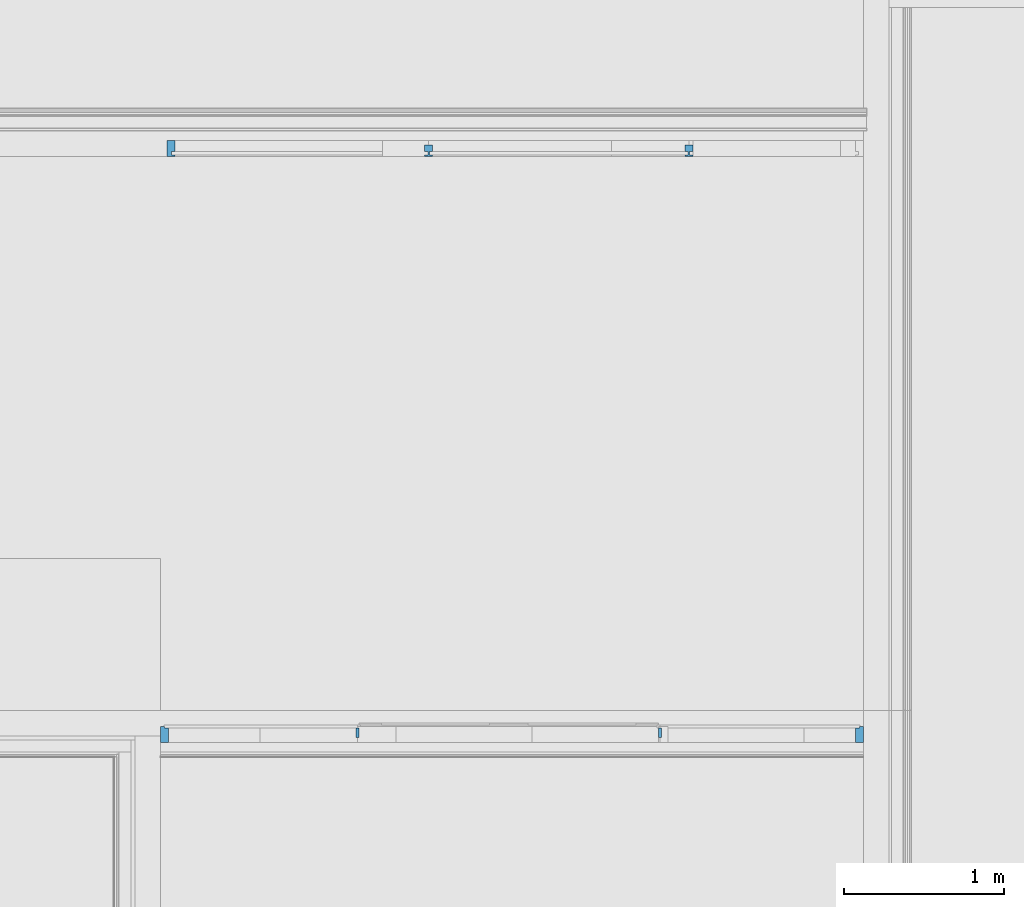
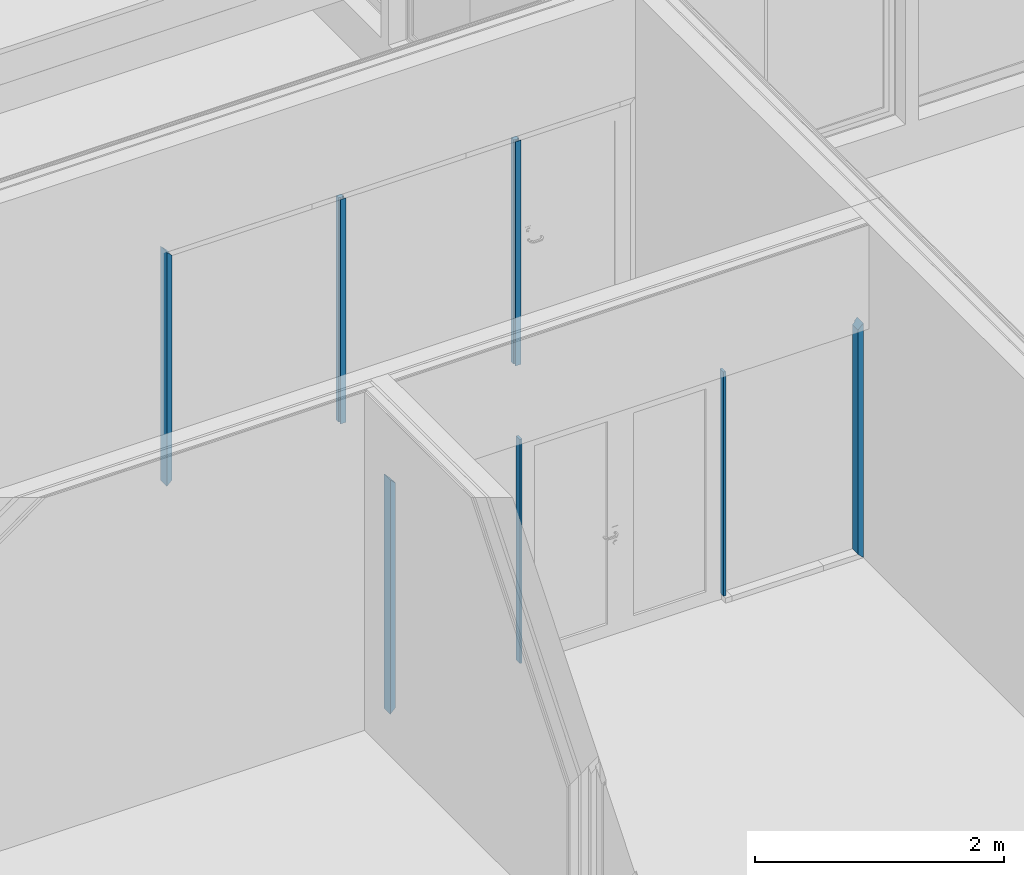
# One storey, part 10 of 139: 7 members, 2 elements without a shape of their own.
"""IFC2X3 building model written with IfcOpenShell, lengths in millimetres."""

import ifcopenshell
import ifcopenshell.guid

model = None  # the IFC model being written
_history = None  # IfcOwnerHistory: only IFC2X3 demands one
_inside = {}  # id of a spatial element -> (the spatial element, [elements in it])
_under = {}  # id of a project, library or spatial element -> (it, [spatial elements below it])
_declared = {}  # id of a project -> (the project, [libraries it declares])
_typed = {}  # id of a type object -> (the type object, [elements of that type])
_made_of = {}  # id of a material, layer set ... -> (it, [elements and type objects made of it])


def new_model(schema):
    """Start an empty IFC model of exactly this schema.

    Asked for "IFC4X3", IfcOpenShell would pick the latest addendum, in which some entities
    have other attributes; the version numbers below select the first issue.
    IFC2X3 requires an IfcOwnerHistory on every rooted entity: one is made here for all.
    """
    global model, _history
    if schema == "IFC4X3":
        model = ifcopenshell.file(schema_version=(4, 3, 0, 0))
    else:
        model = ifcopenshell.file(schema=schema)
    _inside.clear()
    _under.clear()
    _declared.clear()
    _typed.clear()
    _made_of.clear()
    _history = None
    if model.schema == "IFC2X3":
        org = make("IfcOrganization", Name="unknown")
        user = make(
            "IfcPersonAndOrganization",
            ThePerson=make("IfcPerson", FamilyName="unknown"),
            TheOrganization=org,
        )
        app = make(
            "IfcApplication",
            ApplicationDeveloper=org,
            Version="unknown",
            ApplicationFullName="unknown",
            ApplicationIdentifier="unknown",
        )
        _history = make(
            "IfcOwnerHistory",
            OwningUser=user,
            OwningApplication=app,
            ChangeAction="ADDED",
            CreationDate=0,
        )
    return model


def make(cls, **values):
    """One entity of the class cls with the attributes given. An attribute that is None is left unset."""
    return model.create_entity(
        cls, **{name: value for name, value in values.items() if value is not None}
    )


def entity(cls, *values):
    """Any entity or typed value of the class cls, its attributes in the order of the schema. None: left unset."""
    e = model.create_entity(cls)
    for i, value in enumerate(values):
        if value is not None:
            e[i] = value
    return e


def rooted(cls, **values):
    """An entity with a GlobalId (a new one), such as an element, a storey or a relation."""
    return make(cls, GlobalId=ifcopenshell.guid.new(), OwnerHistory=_history, **values)


def si_unit(unit_type, name, prefix=None):
    """IfcSIUnit, for example si_unit("LENGTHUNIT", "METRE", prefix="MILLI")."""
    return make("IfcSIUnit", UnitType=unit_type, Prefix=prefix, Name=name)


def converted_unit(unit_type, name, factor, base, dimensions=None, offset=None):
    """IfcConversionBasedUnit, such as the inch: factor (a typed value) times the base unit."""
    return make(
        "IfcConversionBasedUnit"
        if offset is None
        else "IfcConversionBasedUnitWithOffset",
        ConversionOffset=offset,
        Dimensions=None
        if dimensions is None
        else entity("IfcDimensionalExponents", *dimensions),
        UnitType=unit_type,
        Name=name,
        ConversionFactor=make(
            "IfcMeasureWithUnit", ValueComponent=factor, UnitComponent=base
        ),
    )


def derived_unit(unit_type, elements):
    """IfcDerivedUnit: a product of units, each with its exponent."""
    return make(
        "IfcDerivedUnit",
        Elements=[
            make("IfcDerivedUnitElement", Unit=unit, Exponent=power)
            for unit, power in elements
        ],
        UnitType=unit_type,
    )


def money_unit(currency):
    """IfcMonetaryUnit."""
    return make("IfcMonetaryUnit", Currency=currency)


def assignment(units):
    """IfcUnitAssignment: the units of a project."""
    return None if units is None else make("IfcUnitAssignment", Units=units)


def point(xyz):
    """IfcCartesianPoint."""
    return None if xyz is None else make("IfcCartesianPoint", Coordinates=xyz)


def direction(xyz):
    """IfcDirection."""
    return None if xyz is None else make("IfcDirection", DirectionRatios=xyz)


def frame(location, z_axis=None, x_axis=None):
    """IfcAxis2Placement3D, a coordinate frame: its origin and axes. An axis left out is left unset."""
    return make(
        "IfcAxis2Placement3D",
        Location=point(location),
        Axis=direction(z_axis),
        RefDirection=direction(x_axis),
    )


def origin_with_axes():
    """The frame at (0, 0, 0) with the z axis (0, 0, 1) and the x axis (1, 0, 0) written out."""
    return frame((0.0, 0.0, 0.0), z_axis=(0.0, 0.0, 1.0), x_axis=(1.0, 0.0, 0.0))


def place(relative_to, where):
    """IfcLocalPlacement: puts the frame where relative to a parent placement (None: the world)."""
    return make(
        "IfcLocalPlacement", PlacementRelTo=relative_to, RelativePlacement=where
    )


def context(
    kind, dimensions, precision=None, world=None, true_north=None, identifier=None
):
    """IfcGeometricRepresentationContext, for example the 3D "Model" context."""
    return make(
        "IfcGeometricRepresentationContext",
        ContextIdentifier=identifier,
        ContextType=kind,
        CoordinateSpaceDimension=dimensions,
        Precision=precision,
        WorldCoordinateSystem=world,
        TrueNorth=true_north,
    )


def subcontext(parent, identifier, kind, view, scale=None):
    """IfcGeometricRepresentationSubContext, for example "Body" below "Model"."""
    return make(
        "IfcGeometricRepresentationSubContext",
        ContextIdentifier=identifier,
        ContextType=kind,
        ParentContext=parent,
        TargetScale=scale,
        TargetView=view,
    )


def project(units=None, contexts=None):
    """IfcProject with its units and contexts."""
    return rooted(
        "IfcProject",
        Name="project",
        RepresentationContexts=contexts,
        UnitsInContext=assignment(units),
    )


def spatial(cls, under=None, at=None, **own):
    """A site, building, storey or space (cls), placed at a placement, below another one or the project."""
    s = rooted(cls, ObjectPlacement=at, **own)
    if under is not None:
        _under.setdefault(under.id(), (under, []))[1].append(s)
    return s


def faces_of(points, faces, orient=None, outer=None):
    """IfcFace entities. A face is a list of loops; a loop is a list of indices into points, from 0.

    orient and outer hold one flag for each loop. By default every Orientation is true, the
    first loop of a face is its IfcFaceOuterBound and the others are IfcFaceBound.
    """
    made = []
    for i, loops in enumerate(faces):
        bounds = []
        for j, loop in enumerate(loops):
            is_outer = j == 0 if outer is None else outer[i][j]
            bounds.append(
                make(
                    "IfcFaceOuterBound" if is_outer else "IfcFaceBound",
                    Bound=make("IfcPolyLoop", Polygon=[points[k] for k in loop]),
                    Orientation=True if orient is None else orient[i][j],
                )
            )
        made.append(make("IfcFace", Bounds=bounds))
    return made


def faceted_brep(points, faces, orient=None, outer=None, voids=None):
    """IfcFacetedBrep: a solid bounded by flat faces; with voids (closed shells), ...WithVoids."""
    shared = [point(p) for p in points]
    hull = make("IfcClosedShell", CfsFaces=faces_of(shared, faces, orient, outer))
    if voids is None:
        return make("IfcFacetedBrep", Outer=hull)
    return make(
        "IfcFacetedBrepWithVoids",
        Outer=hull,
        Voids=[
            make(cls, CfsFaces=faces_of(shared, fs, o, b)) for cls, fs, o, b in voids
        ],
    )


def shape(context_of_items, identifier, shape_type, items):
    """IfcShapeRepresentation: the items that make up one representation, for example the "Body"."""
    return make(
        "IfcShapeRepresentation",
        ContextOfItems=context_of_items,
        RepresentationIdentifier=identifier,
        RepresentationType=shape_type,
        Items=items,
    )


def source(mapping_origin, context_of_items, identifier, shape_type, items):
    """IfcRepresentationMap: a shape defined once, which mapped items show again and again."""
    return make(
        "IfcRepresentationMap",
        MappingOrigin=mapping_origin,
        MappedRepresentation=shape(context_of_items, identifier, shape_type, items),
    )


def transform(
    local_origin,
    x_axis=None,
    y_axis=None,
    z_axis=None,
    scale=None,
    scale2=None,
    scale3=None,
    uniform=True,
):
    """IfcCartesianTransformationOperator3D, or its non-uniform kind. x_axis, y_axis, z_axis: its Axis1, 2, 3."""
    if uniform:
        return make(
            "IfcCartesianTransformationOperator3D",
            Axis1=direction(x_axis),
            Axis2=direction(y_axis),
            LocalOrigin=point(local_origin),
            Scale=scale,
            Axis3=direction(z_axis),
        )
    return make(
        "IfcCartesianTransformationOperator3DnonUniform",
        Axis1=direction(x_axis),
        Axis2=direction(y_axis),
        LocalOrigin=point(local_origin),
        Scale=scale,
        Axis3=direction(z_axis),
        Scale2=scale2,
        Scale3=scale3,
    )


def mapped(mapping_source, mapping_target):
    """IfcMappedItem: shows the shape of a source again, moved by a transform."""
    return make(
        "IfcMappedItem", MappingSource=mapping_source, MappingTarget=mapping_target
    )


def material(Name=None, Category=None):
    """IfcMaterial."""
    return make("IfcMaterial", Name=Name, Category=Category)


def made_of(thing, what):
    """Note that an element or type object is made of a material, layer set ...; save() writes the relation."""
    if what is not None:
        _made_of.setdefault(what.id(), (what, []))[1].append(thing)
    return thing


def type_object(cls, material=None, **own):
    """A type object (cls), such as IfcWallType, which elements share."""
    return made_of(rooted(cls, **own), material)


def element(
    cls,
    number,
    at=None,
    inside=None,
    cuts=None,
    type_object=None,
    material=None,
    context=None,
    identifier="Body",
    shape_type=None,
    held_by="IfcProductDefinitionShape",
    body=None,
    shapes=None,
    **own,
):
    """One element of the class cls, such as IfcWall. Its Tag is "e" and its number.

    at: its placement. inside: the storey or other place that contains it. cuts: it is an
    opening in that element (IfcRelVoidsElement). A single representation is given by context,
    identifier, shape_type and body (its items); several are given by shapes. held_by: the class
    of the entity that holds the representations. save() writes the other relations.
    """
    e = rooted(cls, Tag="e%d" % number, ObjectPlacement=at, **own)
    if body is not None:
        shapes = [shape(context, identifier, shape_type, body)]
    if shapes is not None:
        e.Representation = make(held_by, Representations=shapes)
    if inside is not None:
        _inside.setdefault(inside.id(), (inside, []))[1].append(e)
    if cuts is not None:
        rooted(
            "IfcRelVoidsElement", RelatingBuildingElement=cuts, RelatedOpeningElement=e
        )
    if type_object is not None:
        _typed.setdefault(type_object.id(), (type_object, []))[1].append(e)
    return made_of(e, material)


def aggregate(whole, parts):
    """IfcRelAggregates: a whole, such as a stair, and the parts it consists of."""
    return rooted("IfcRelAggregates", RelatingObject=whole, RelatedObjects=parts)


def save(model, path):
    """Write the relations noted so far, then the file.

    IfcRelAggregates (storeys below a building ...), IfcRelContainedInSpatialStructure (elements
    in a storey), IfcRelDefinesByType, IfcRelAssociatesMaterial and IfcRelDeclares: one each for
    every whole, place, type object, material and project.
    """
    for whole, parts in _under.values():
        aggregate(whole, parts)
    for where, things in _inside.values():
        rooted(
            "IfcRelContainedInSpatialStructure",
            RelatedElements=things,
            RelatingStructure=where,
        )
    for kind, things in _typed.values():
        rooted("IfcRelDefinesByType", RelatedObjects=things, RelatingType=kind)
    for what, things in _made_of.values():
        rooted("IfcRelAssociatesMaterial", RelatedObjects=things, RelatingMaterial=what)
    for by, libraries in _declared.values():
        rooted("IfcRelDeclares", RelatingContext=by, RelatedDefinitions=libraries)
    model.write(path)


model = new_model("IFC2X3")

# Units and contexts
model_context = context("Model", 3, precision=0.01, world=origin_with_axes(), true_north=direction((0.0, 1.0)))
body_context = subcontext(model_context, "Body", "Model", "MODEL_VIEW")
ifc_project = project(units=[si_unit("LENGTHUNIT", "METRE", prefix="MILLI"), si_unit("AREAUNIT", "SQUARE_METRE"), si_unit("VOLUMEUNIT", "CUBIC_METRE"), converted_unit("PLANEANGLEUNIT", "DEGREE", entity("IfcPlaneAngleMeasure", 0.0174532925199), si_unit("PLANEANGLEUNIT", "RADIAN"), dimensions=[0, 0, 0, 0, 0, 0, 0]), money_unit("EUR"), converted_unit("TIMEUNIT", "Year", entity("IfcTimeMeasure", 31556926.0), si_unit("TIMEUNIT", "SECOND"), dimensions=[0, 0, 1, 0, 0, 0, 0]), si_unit("MASSUNIT", "GRAM", prefix="KILO"), si_unit("THERMODYNAMICTEMPERATUREUNIT", "DEGREE_CELSIUS"), si_unit("LUMINOUSINTENSITYUNIT", "LUMEN"), si_unit("ENERGYUNIT", "JOULE", prefix="MEGA"), derived_unit("THERMALCONDUCTANCEUNIT", [(si_unit("POWERUNIT", "WATT"), 1), (si_unit("LENGTHUNIT", "METRE"), -1), (si_unit("THERMODYNAMICTEMPERATUREUNIT", "KELVIN"), -1)]), derived_unit("SPECIFICHEATCAPACITYUNIT", [(si_unit("ENERGYUNIT", "JOULE"), 1), (si_unit("MASSUNIT", "GRAM", prefix="KILO"), -1), (si_unit("THERMODYNAMICTEMPERATUREUNIT", "KELVIN"), -1)]), derived_unit("MASSDENSITYUNIT", [(si_unit("MASSUNIT", "GRAM", prefix="KILO"), 1), (si_unit("VOLUMEUNIT", "CUBIC_METRE"), -1)])], contexts=[model_context])

# Site, building, storey
site_placement = place(None, origin_with_axes())
site = spatial("IfcSite", under=ifc_project, at=site_placement, Name="Kolde pst 67a", CompositionType="ELEMENT")
building_placement = place(site_placement, origin_with_axes())
building = spatial("IfcBuilding", under=site, at=building_placement, Name="Riigigümnaasium", CompositionType="ELEMENT")
storey_placement = place(building_placement, frame((0.0, 0.0, 4600.0), z_axis=(0.0, 0.0, 1.0), x_axis=(1.0, 0.0, 0.0)))
storey = spatial("IfcBuildingStorey", under=building, at=storey_placement, Name="2. korrus", CompositionType="ELEMENT", Elevation=4600.0)

# Curtain wall, members
curtain_wall_type = type_object("IfcCurtainWallType", Name="Curtain Wall Type", PredefinedType="NOTDEFINED")
curtain_wall_1_placement = place(storey_placement, frame((32923.3668784, 59369.9979478, 0.0), z_axis=(0.0, 0.0, 1.0), x_axis=(1.0, 0.0, 0.0)))
curtain_wall_1 = element("IfcCurtainWall", 1, at=curtain_wall_1_placement, inside=storey, type_object=curtain_wall_type, Name="KLAASSEIN")
ifc_material_1 = material(Name="_METALL - alumiinium")
member_type_1 = type_object("IfcMemberType", Name="Boundary Frame 50 x 100", PredefinedType="MEMBER")
shared_shape_1 = source(origin_with_axes(), body_context, "Body", "Brep", [
    faceted_brep([(30.0, -10.0, 2270.0), (30.0, 10.0, 2270.0), (50.0, 10.0, 2250.0), (50.0, 20.0, 2250.0), (0.0, 20.0, 2300.0), (0.0, -80.0, 2300.0), (50.0, -80.0, 2250.0), (50.0, -10.0, 2250.0), (30.0, -10.0, 30.0), (30.0, 10.0, 30.0), (50.0, 10.0, 50.0), (50.0, 20.0, 50.0), (0.0, 20.0, 0.0), (0.0, -80.0, 0.0), (50.0, -80.0, 50.0), (50.0, -10.0, 50.0)], [[[0, 1, 2, 3, 4, 5, 6, 7]], [[1, 0, 8, 9]], [[10, 2, 1, 9]], [[2, 10, 11, 3]], [[4, 3, 11, 12]], [[5, 4, 12, 13]], [[6, 5, 13, 14]], [[15, 7, 6, 14]], [[0, 7, 15, 8]], [[8, 15, 14, 13, 12, 11, 10, 9]]]),
])
member_1_placement = place(curtain_wall_1_placement, frame((-994.221316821, 0.0, 2300.0), z_axis=(0.0, 0.0, -1.0), x_axis=(1.0, 0.0, 0.0)))
member_1 = element("IfcMember", 2, at=member_1_placement, type_object=member_type_1, material=ifc_material_1, Name="RF RAAM SERV-495", ObjectType="MEMBER", context=body_context, shape_type="MappedRepresentation", body=[
    mapped(shared_shape_1, transform((0.0, 0.0, 0.0))),
])
member_type_2 = type_object("IfcMemberType", Name="Mullion Frame 50 x 70", PredefinedType="MEMBER")
shared_shape_2 = source(origin_with_axes(), body_context, "Body", "Brep", [
    faceted_brep([(-5.0, -10.0, 2250.0), (-25.0, -10.0, 2250.0), (-25.0, -50.0, 2250.0), (25.0, -50.0, 2250.0), (25.0, -10.0, 2250.0), (5.0, -10.0, 2250.0), (5.0, 10.0, 2250.0), (25.0, 10.0, 2250.0), (25.0, 20.0, 2250.0), (-25.0, 20.0, 2250.0), (-25.0, 10.0, 2250.0), (-5.0, 10.0, 2250.0), (-5.0, -10.0, 50.0), (-25.0, -10.0, 50.0), (-25.0, -50.0, 50.0), (25.0, -50.0, 50.0), (25.0, -10.0, 50.0), (5.0, -10.0, 50.0), (5.0, 10.0, 50.0), (25.0, 10.0, 50.0), (25.0, 20.0, 50.0), (-25.0, 20.0, 50.0), (-25.0, 10.0, 50.0), (-5.0, 10.0, 50.0)], [[[0, 1, 2, 3, 4, 5, 6, 7, 8, 9, 10, 11]], [[1, 0, 12, 13]], [[1, 13, 14, 2]], [[2, 14, 15, 3]], [[4, 3, 15, 16]], [[4, 16, 17, 5]], [[5, 17, 18, 6]], [[7, 6, 18, 19]], [[19, 20, 8, 7]], [[8, 20, 21, 9]], [[22, 10, 9, 21]], [[11, 10, 22, 23]], [[0, 11, 23, 12]], [[23, 22, 21, 20, 19, 18, 17, 16, 15, 14, 13, 12]]]),
])
member_2_placement = place(curtain_wall_1_placement, frame((2266.63234292, 0.0, 0.0), z_axis=(0.0, 0.0, 1.0), x_axis=(-1.0, 0.0, 0.0)))
member_2 = element("IfcMember", 3, at=member_2_placement, type_object=member_type_2, material=ifc_material_1, Name="RF RAAM VERT-238", ObjectType="MEMBER", context=body_context, shape_type="MappedRepresentation", body=[
    mapped(shared_shape_2, transform((0.0, 0.0, 0.0))),
])
member_3_placement = place(curtain_wall_1_placement, frame((641.63235258, 0.0, 0.0), z_axis=(0.0, 0.0, 1.0), x_axis=(-1.0, 0.0, 0.0)))
member_3 = element("IfcMember", 4, at=member_3_placement, type_object=member_type_2, material=ifc_material_1, Name="RF RAAM VERT-239", ObjectType="MEMBER", context=body_context, shape_type="MappedRepresentation", body=[
    mapped(shared_shape_2, transform((0.0, 0.0, 0.0))),
])
aggregate(curtain_wall_1, [member_2, member_3, member_1])

curtain_wall_2_placement = place(storey_placement, frame((35564.9561331, 55789.9111982, 0.0), z_axis=(0.0, 0.0, 1.0), x_axis=(1.0, 0.0, 0.0)))
curtain_wall_2 = element("IfcCurtainWall", 5, at=curtain_wall_2_placement, inside=storey, type_object=curtain_wall_type, Name="KLAASSEIN")
ifc_material_2 = material(Name="_GENEERILINE MATERJAL")
shared_shape_3 = source(origin_with_axes(), body_context, "Body", "Brep", [
    faceted_brep([(-50.0, -10.0, 50.0), (-50.0, -100.0, 50.0), (-50.0, -100.0, 2250.0), (-50.0, -10.0, 2250.0), (-25.0, -10.0, 25.0), (-25.0, 0.0, 25.0), (0.0, 0.0, 0.0), (0.0, -100.0, 0.0), (0.0, -100.0, 2300.0), (-25.0, -10.0, 2275.0), (0.0, 0.0, 2300.0), (-25.0, 0.0, 2275.0)], [[[0, 1, 2, 3]], [[4, 5, 6, 7, 1, 0]], [[2, 1, 7, 8]], [[9, 3, 2, 8, 10, 11]], [[9, 4, 0, 3]], [[5, 4, 9, 11]], [[11, 10, 6, 5]], [[8, 7, 6, 10]]]),
])
member_4_placement = place(curtain_wall_2_placement, frame((-3674.95943176, 0.0, 2300.0), z_axis=(0.0, 0.0, -1.0), x_axis=(1.0, 0.0, 0.0)))
member_4 = element("IfcMember", 6, at=member_4_placement, type_object=member_type_1, material=ifc_material_2, Name="RF RAAM SERV-112", ObjectType="MEMBER", context=body_context, shape_type="MappedRepresentation", body=[
    mapped(shared_shape_3, transform((0.0, 0.0, 0.0), x_axis=(-1.0, 0.0, 0.0), y_axis=(0.0, -1.0, 0.0), z_axis=(0.0, 0.0, 1.0))),
])
member_5_placement = place(curtain_wall_2_placement, frame((715.043069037, 0.0, 0.0), z_axis=(0.0, 0.0, 1.0), x_axis=(-1.0, 0.0, 0.0)))
member_5 = element("IfcMember", 7, at=member_5_placement, type_object=member_type_1, material=ifc_material_2, Name="RF RAAM SERV-119", ObjectType="MEMBER", context=body_context, shape_type="MappedRepresentation", body=[
    mapped(shared_shape_3, transform((0.0, 0.0, 0.0), x_axis=(-1.0, 0.0, 0.0), y_axis=(0.0, -1.0, 0.0), z_axis=(0.0, 0.0, 1.0))),
])
member_type_3 = type_object("IfcMemberType", Name="Mullion Frame 20 x 70", PredefinedType="MEMBER")
shared_shape_4 = source(origin_with_axes(), body_context, "Body", "Brep", [
    faceted_brep([(0.0, -10.0, 50.0), (-10.0, -10.0, 50.0), (-10.0, -10.0, 2250.0), (0.0, -10.0, 2250.0), (10.0, -10.0, 2250.0), (10.0, -10.0, 50.0), (10.0, -70.0, 50.0), (-10.0, -70.0, 50.0), (-10.0, -70.0, 2250.0), (10.0, -70.0, 2250.0)], [[[0, 1, 2, 3, 4, 5]], [[5, 6, 7, 1, 0]], [[2, 1, 7, 8]], [[3, 2, 8, 9, 4]], [[4, 9, 6, 5]], [[9, 8, 7, 6]]]),
])
member_6_placement = place(curtain_wall_2_placement, frame((-554.961222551, 0.0, 0.0), z_axis=(0.0, 0.0, 1.0), x_axis=(-1.0, 0.0, 0.0)))
member_6 = element("IfcMember", 8, at=member_6_placement, type_object=member_type_3, material=ifc_material_2, Name="RF RAAM VERT-340", ObjectType="MEMBER", context=body_context, shape_type="MappedRepresentation", body=[
    mapped(shared_shape_4, transform((0.0, 0.0, 0.0), x_axis=(-1.0, 0.0, 0.0), y_axis=(0.0, -1.0, 0.0), z_axis=(0.0, 0.0, 1.0))),
])
member_7_placement = place(curtain_wall_2_placement, frame((-2444.9611912, 0.0, 0.0), z_axis=(0.0, 0.0, 1.0), x_axis=(-1.0, 0.0, 0.0)))
member_7 = element("IfcMember", 9, at=member_7_placement, type_object=member_type_3, material=ifc_material_2, Name="RF RAAM VERT-341", ObjectType="MEMBER", context=body_context, shape_type="MappedRepresentation", body=[
    mapped(shared_shape_4, transform((0.0, 0.0, 0.0), x_axis=(-1.0, 0.0, 0.0), y_axis=(0.0, -1.0, 0.0), z_axis=(0.0, 0.0, 1.0))),
])
aggregate(curtain_wall_2, [member_4, member_5, member_6, member_7])

save(model, "model.ifc")
